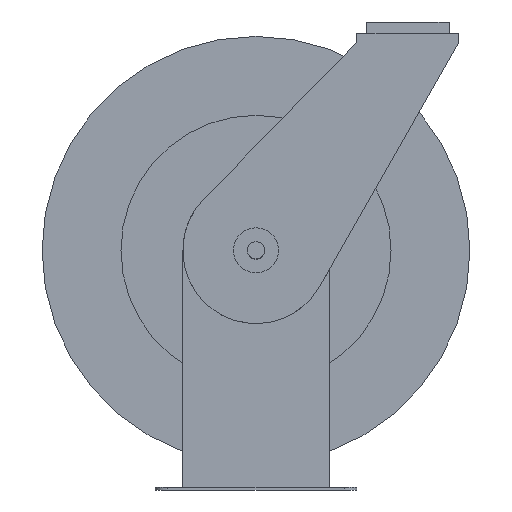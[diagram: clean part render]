
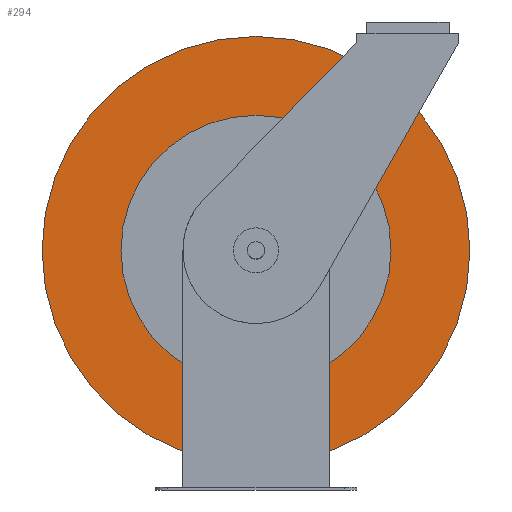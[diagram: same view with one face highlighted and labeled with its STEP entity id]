
A CAD part, front view. The second image highlights one B-rep face of the part: STEP entity #294.
In plain terms, the highlighted planar face has unit normal (0, -1, 0).
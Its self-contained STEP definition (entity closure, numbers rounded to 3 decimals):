
#294 = ADVANCED_FACE( '', ( #649, #650 ), #651, .T. );
#649 = FACE_OUTER_BOUND( '', #1036, .T. );
#650 = FACE_BOUND( '', #1037, .T. );
#651 = PLANE( '', #1038 );
#1036 = EDGE_LOOP( '', ( #1785 ) );
#1037 = EDGE_LOOP( '', ( #1786 ) );
#1038 = AXIS2_PLACEMENT_3D( '', #1787, #1788, #1789 );
#1785 = ORIENTED_EDGE( '', *, *, #2131, .T. );
#1786 = ORIENTED_EDGE( '', *, *, #1999, .F. );
#1787 = CARTESIAN_POINT( '', ( 0., 63.424, 419.532 ) );
#1788 = DIRECTION( '', ( 0., -1., 0. ) );
#1789 = DIRECTION( '', ( 0., 0., -1. ) );
#1999 = EDGE_CURVE( '', #2334, #2334, #2335, .T. );
#2131 = EDGE_CURVE( '', #2557, #2557, #2558, .T. );
#2334 = VERTEX_POINT( '', #2816 );
#2335 = CIRCLE( '', #2817, 152.324 );
#2557 = VERTEX_POINT( '', #3110 );
#2558 = CIRCLE( '', #3111, 241.3 );
#2816 = CARTESIAN_POINT( '', ( 0., 63.424, 114.884 ) );
#2817 = AXIS2_PLACEMENT_3D( '', #3420, #3421, #3422 );
#3110 = CARTESIAN_POINT( '', ( 0., 63.424, 25.908 ) );
#3111 = AXIS2_PLACEMENT_3D( '', #3587, #3588, #3589 );
#3420 = CARTESIAN_POINT( '', ( 0., 63.424, 267.208 ) );
#3421 = DIRECTION( '', ( 0., -1., 0. ) );
#3422 = DIRECTION( '', ( 0., 0., -1. ) );
#3587 = CARTESIAN_POINT( '', ( 0., 63.424, 267.208 ) );
#3588 = DIRECTION( '', ( 0., -1., 0. ) );
#3589 = DIRECTION( '', ( 0., 0., -1. ) );
